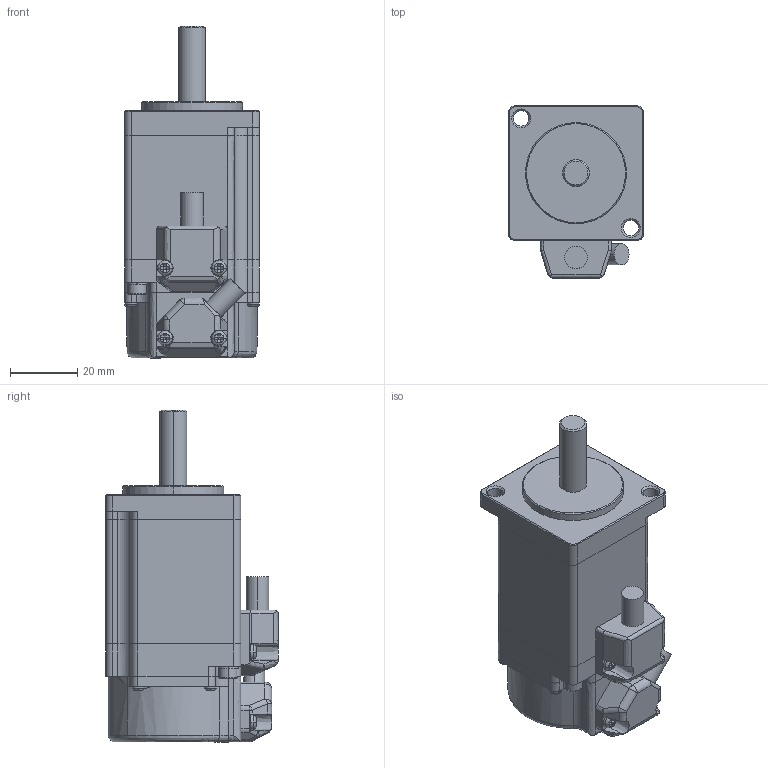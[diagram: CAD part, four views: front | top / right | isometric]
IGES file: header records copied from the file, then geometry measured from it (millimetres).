
Start section: Elysium IGES Interface
Global section: file name: 79H\\nas63\design\04MC研\saka\3DCAD\TBL-i2カタログまとめ\PKGデータ\TS4603_BK無.igs; native system: Creo Elements/Direct Modeling 17.0F  20-Aug-2012; preprocessor: Creo Element/Direct IGES_3D V2.2; author: Unknown; organization: Unknown; date: 20161221.154938; units: millimetre
Bounding box: 40 x 51.1 x 98.5 mm (x, y, z)
Volume: 114343.1 mm3; surface area: 16721.2 mm2
Topology: 1 solids, 1 shells, 562 faces, 1297 edges, 732 vertices
Faces by surface type: bspline 562
